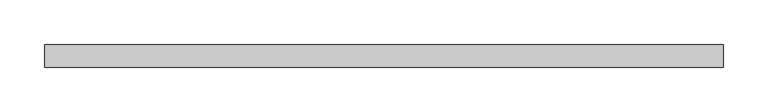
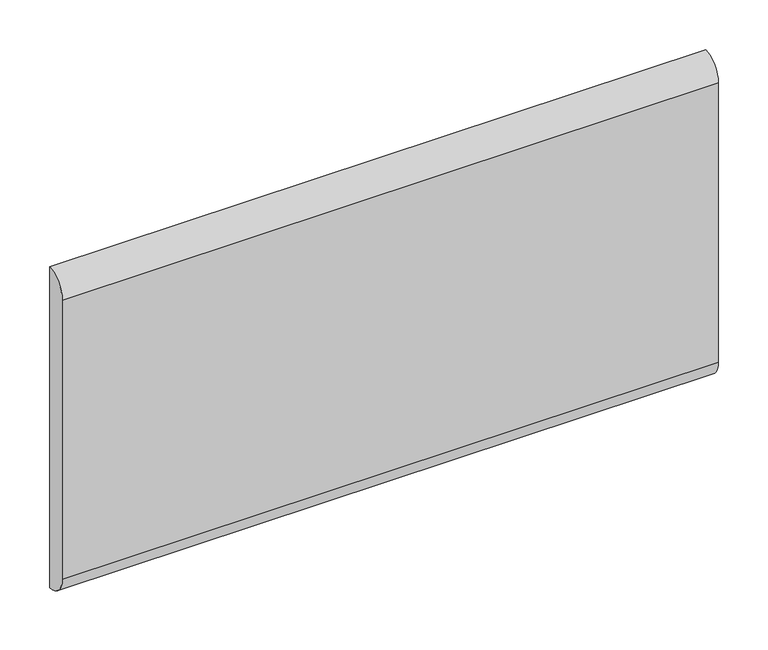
"""IFC4 building model written with IfcOpenShell, lengths in millimetres: furniture geometry."""

from ifc_helpers import new_model, si_unit, point, frame, frame_2d, origin, place, context, project, spatial, polyline, circle_curve, trimmed, segment, composite_curve, outline, extrude, source, transform, mapped, element, save


def furniture_7c5ded92(model_context):
    return source(origin(), model_context, "Body", "SweptSolid", [
        extrude(outline(composite_curve([segment(trimmed(circle_curve(frame_2d((12.7, 711.2)), 25.4), [point((12.7, 685.8))], [point((-12.7, 711.2))], False, "CARTESIAN"), True, "CONTINUOUS"), segment(polyline([(-12.7, 711.2), (-12.7, 1054.1)]), True, "CONTINUOUS"), segment(trimmed(circle_curve(frame_2d((12.7, 1054.1)), 25.4), [point((-12.7, 1054.1))], [point((12.7, 1079.5))], False, "CARTESIAN"), True, "CONTINUOUS"), segment(polyline([(12.7, 1079.5), (12.7, 685.8)]), True, "CONTINUOUS")], self_intersect=False)), frame((-381.0, 0.0, 0.0), z_axis=(1.0, 0.0, 0.0), x_axis=(0.0, 1.0, 0.0)), (0.0, 0.0, 1.0), 762.0),
    ])


if __name__ == "__main__":
    model = new_model("IFC4")
    model_context = context("Model", 3, world=origin())
    ifc_project = project(units=[si_unit("LENGTHUNIT", "METRE", prefix="MILLI")], contexts=[model_context])
    site = spatial("IfcSite", under=ifc_project)
    building = spatial("IfcBuilding", under=site)
    placement = place(None, origin())
    furniture_shape = furniture_7c5ded92(model_context)
    element("IfcFurniture", 1, ObjectType="HermanMiller_ActionOffice_A3410_B-StyleTackboard : 16\"H x 30\"W", at=placement, inside=building, context=model_context, shape_type="MappedRepresentation", body=[
        mapped(furniture_shape, transform((0.0, 0.0, 0.0), x_axis=(1.0, 0.0, 0.0), y_axis=(0.0, 1.0, 0.0), z_axis=(0.0, 0.0, 1.0))),
    ])
    save(model, "model.ifc")
